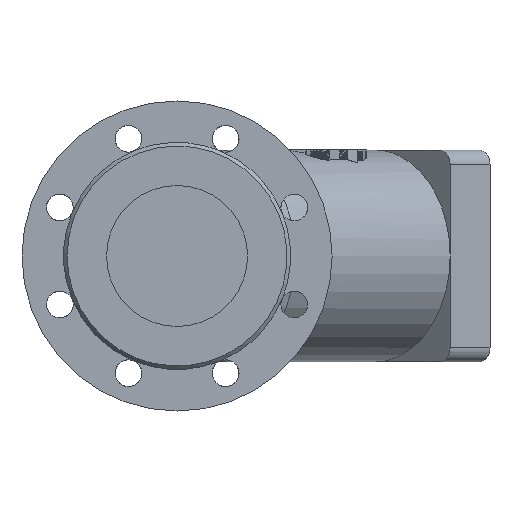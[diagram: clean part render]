
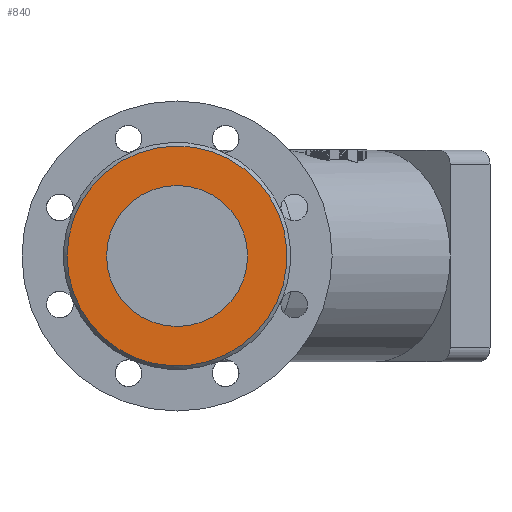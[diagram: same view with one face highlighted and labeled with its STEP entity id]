
A CAD part, left-side view. The second image highlights one B-rep face of the part: STEP entity #840.
In plain terms, the highlighted planar face has unit normal (-1, 0, 0).
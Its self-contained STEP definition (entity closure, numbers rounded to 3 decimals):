
#840=ADVANCED_FACE('',(#9038,#9040),#9042,.T.);
#9038=FACE_BOUND('',#9039,.T.);
#9039=EDGE_LOOP('',(#16154,#16155));
#9040=FACE_BOUND('',#9041,.T.);
#9041=EDGE_LOOP('',(#16156,#16157));
#9042=PLANE('',#9043);
#9043=AXIS2_PLACEMENT_3D('',#9044,#9045,#9046);
#9044=CARTESIAN_POINT('',(7675.293,-4188.004,2.199));
#9045=DIRECTION('',(-1.,0.,0.));
#9046=DIRECTION('',(0.,0.,1.));
#16154=ORIENTED_EDGE('',*,*,#21350,.F.);
#16155=ORIENTED_EDGE('',*,*,#21351,.F.);
#16156=ORIENTED_EDGE('',*,*,#21352,.T.);
#16157=ORIENTED_EDGE('',*,*,#21353,.T.);
#21350=EDGE_CURVE('',#25073,#25074,#25075,.T.);
#21351=EDGE_CURVE('',#25074,#25073,#25076,.T.);
#21352=EDGE_CURVE('',#25077,#25078,#25079,.T.);
#21353=EDGE_CURVE('',#25078,#25077,#25080,.T.);
#25073=VERTEX_POINT('',#33801);
#25074=VERTEX_POINT('',#33802);
#25075=CIRCLE('',#33803,78.);
#25076=CIRCLE('',#33807,78.);
#25077=VERTEX_POINT('',#33811);
#25078=VERTEX_POINT('',#33812);
#25079=CIRCLE('',#33813,50.);
#25080=CIRCLE('',#33817,50.);
#33801=CARTESIAN_POINT('',(7675.293,-4251.242,78.789));
#33802=CARTESIAN_POINT('',(7675.293,-4188.004,2.199));
#33803=AXIS2_PLACEMENT_3D('',#33804,#33805,#33806);
#33804=CARTESIAN_POINT('',(7675.293,-4266.004,2.199));
#33805=DIRECTION('',(1.,0.,0.));
#33806=DIRECTION('',(0.,0.189,0.982));
#33807=AXIS2_PLACEMENT_3D('',#33808,#33809,#33810);
#33808=CARTESIAN_POINT('',(7675.293,-4266.004,2.199));
#33809=DIRECTION('',(1.,0.,0.));
#33810=DIRECTION('',(0.,1.,0.));
#33811=CARTESIAN_POINT('',(7675.293,-4216.004,2.199));
#33812=CARTESIAN_POINT('',(7675.293,-4316.004,2.199));
#33813=AXIS2_PLACEMENT_3D('',#33814,#33815,#33816);
#33814=CARTESIAN_POINT('',(7675.293,-4266.004,2.199));
#33815=DIRECTION('',(1.,0.,0.));
#33816=DIRECTION('',(0.,1.,0.));
#33817=AXIS2_PLACEMENT_3D('',#33818,#33819,#33820);
#33818=CARTESIAN_POINT('',(7675.293,-4266.004,2.199));
#33819=DIRECTION('',(1.,0.,0.));
#33820=DIRECTION('',(0.,-1.,0.));
